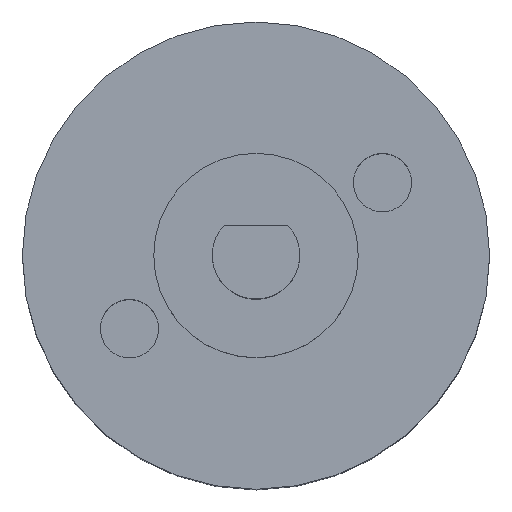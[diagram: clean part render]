
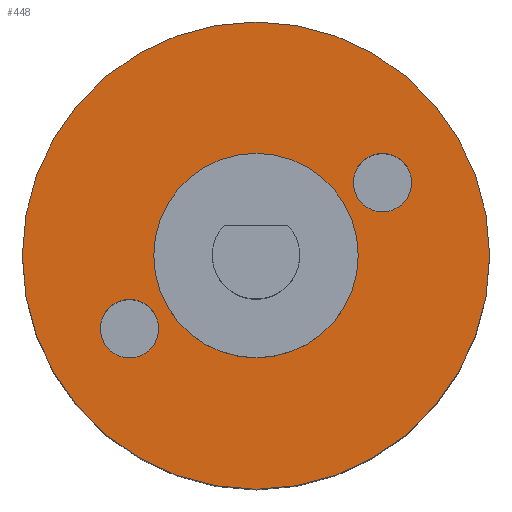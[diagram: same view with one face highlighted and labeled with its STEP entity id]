
A CAD part, top view. The second image highlights one B-rep face of the part: STEP entity #448.
In plain terms, the highlighted planar face has unit normal (0, 0, 1).
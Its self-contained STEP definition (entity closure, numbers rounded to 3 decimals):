
#19=FACE_BOUND('',#100,.T.);
#20=FACE_BOUND('',#101,.T.);
#21=FACE_BOUND('',#102,.T.);
#41=PLANE('',#507);
#68=FACE_OUTER_BOUND('',#99,.T.);
#99=EDGE_LOOP('',(#409,#410));
#100=EDGE_LOOP('',(#411));
#101=EDGE_LOOP('',(#412));
#102=EDGE_LOOP('',(#413,#414));
#183=CIRCLE('',#464,1.);
#185=CIRCLE('',#468,1.);
#195=CIRCLE('',#498,3.5);
#196=CIRCLE('',#499,3.5);
#197=CIRCLE('',#502,8.);
#198=CIRCLE('',#503,8.);
#201=VERTEX_POINT('',#642);
#203=VERTEX_POINT('',#649);
#235=VERTEX_POINT('',#748);
#236=VERTEX_POINT('',#750);
#237=VERTEX_POINT('',#755);
#238=VERTEX_POINT('',#756);
#241=EDGE_CURVE('',#201,#201,#183,.T.);
#244=EDGE_CURVE('',#203,#203,#185,.T.);
#292=EDGE_CURVE('',#236,#235,#195,.T.);
#293=EDGE_CURVE('',#235,#236,#196,.T.);
#294=EDGE_CURVE('',#237,#238,#197,.T.);
#295=EDGE_CURVE('',#238,#237,#198,.T.);
#409=ORIENTED_EDGE('',*,*,#294,.T.);
#410=ORIENTED_EDGE('',*,*,#295,.T.);
#411=ORIENTED_EDGE('',*,*,#241,.T.);
#412=ORIENTED_EDGE('',*,*,#244,.T.);
#413=ORIENTED_EDGE('',*,*,#292,.T.);
#414=ORIENTED_EDGE('',*,*,#293,.T.);
#448=ADVANCED_FACE('',(#68,#19,#20,#21),#41,.T.);
#464=AXIS2_PLACEMENT_3D('',#643,#512,#513);
#468=AXIS2_PLACEMENT_3D('',#650,#521,#522);
#498=AXIS2_PLACEMENT_3D('',#751,#619,#620);
#499=AXIS2_PLACEMENT_3D('',#752,#621,#622);
#502=AXIS2_PLACEMENT_3D('',#757,#627,#628);
#503=AXIS2_PLACEMENT_3D('',#758,#629,#630);
#507=AXIS2_PLACEMENT_3D('',#765,#638,#639);
#512=DIRECTION('center_axis',(0.,0.,-1.));
#513=DIRECTION('ref_axis',(1.,0.,0.));
#521=DIRECTION('center_axis',(0.,0.,-1.));
#522=DIRECTION('ref_axis',(1.,0.,0.));
#619=DIRECTION('center_axis',(0.,0.,-1.));
#620=DIRECTION('ref_axis',(1.,0.,0.));
#621=DIRECTION('center_axis',(0.,0.,-1.));
#622=DIRECTION('ref_axis',(1.,0.,0.));
#627=DIRECTION('center_axis',(0.,0.,1.));
#628=DIRECTION('ref_axis',(1.,0.,0.));
#629=DIRECTION('center_axis',(0.,0.,1.));
#630=DIRECTION('ref_axis',(1.,0.,0.));
#638=DIRECTION('center_axis',(0.,0.,1.));
#639=DIRECTION('ref_axis',(1.,0.,0.));
#642=CARTESIAN_POINT('',(3.33,2.5,14.));
#643=CARTESIAN_POINT('Origin',(4.33,2.5,14.));
#649=CARTESIAN_POINT('',(-5.33,-2.5,14.));
#650=CARTESIAN_POINT('Origin',(-4.33,-2.5,14.));
#748=CARTESIAN_POINT('',(-3.5,0.,14.));
#750=CARTESIAN_POINT('',(3.5,0.,14.));
#751=CARTESIAN_POINT('Origin',(0.,0.,
14.));
#752=CARTESIAN_POINT('Origin',(0.,0.,
14.));
#755=CARTESIAN_POINT('',(8.,0.,14.));
#756=CARTESIAN_POINT('',(-8.,0.,14.));
#757=CARTESIAN_POINT('Origin',(0.,0.,14.));
#758=CARTESIAN_POINT('Origin',(0.,0.,14.));
#765=CARTESIAN_POINT('Origin',(0.,0.,14.));
